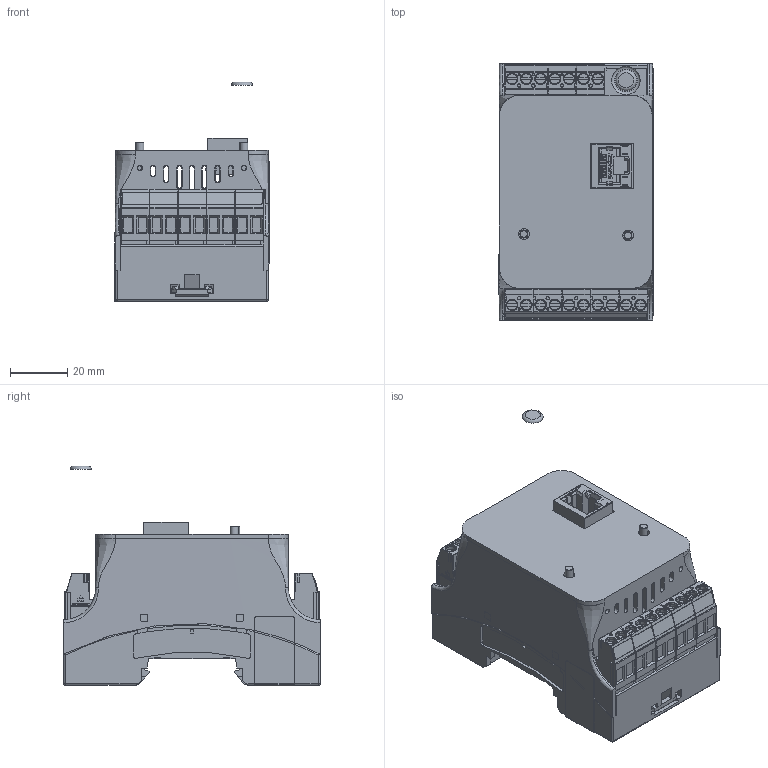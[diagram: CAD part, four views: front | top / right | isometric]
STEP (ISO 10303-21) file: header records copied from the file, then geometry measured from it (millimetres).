
FILE_DESCRIPTION(/* description */ (''),/* implementation_level */ '2;1');
FILE_NAME(/* name */ 'D:\WorkIMT\Project IMT\iT, iTM, iOT\!Melissa base v2.2\3D на сайт\MT.MELISSA2.01.stp',/* time_stamp */ '2025-06-26T18:01:27+03:00',/* author */ ('Admin'),/* organization */ (''),/* preprocessor_version */ 'ST-DEVELOPER v17.2',/* originating_system */ 'Autodesk Inventor 2019',/* authorisation */ '');
FILE_SCHEMA (('AUTOMOTIVE_DESIGN { 1 0 10303 214 3 1 1 }'));
Products named in the file (1): MT.MELISSA2.01
Bounding box: 54.1 x 89.74 x 76.85 mm (x, y, z)
Volume: 64403.7 mm3; surface area: 69237.7 mm2
Topology: 9 solids, 60 shells, 5292 faces, 14917 edges, 9722 vertices
Faces by surface type: plane 4370, cylinder 511, bspline 168, torus 94, cone 85, sphere 64
Full cylindrical faces by diameter (mm): 1 x1, 1.2 x18, 1.72 x1, 1.8 x2, 2.5 x1, 2.8 x2, 3 x5, 3.85 x5, 4.05 x17, 7.547 x1
Entity records: 185806 total; most frequent: CARTESIAN_POINT 43955, ORIENTED_EDGE 29698, DIRECTION 26161, EDGE_CURVE 14849, LINE 12551, VECTOR 12551, VERTEX_POINT 9722, AXIS2_PLACEMENT_3D 6805
